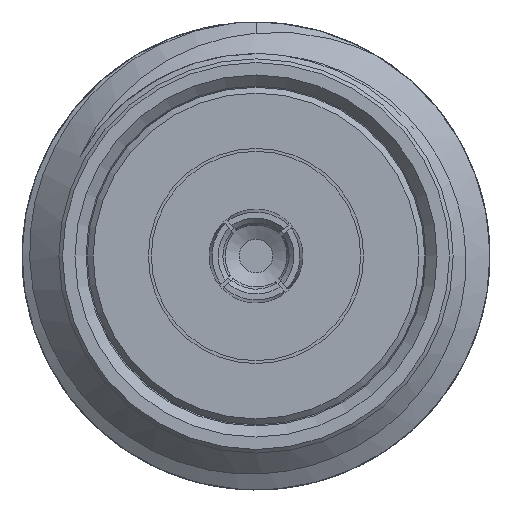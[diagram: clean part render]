
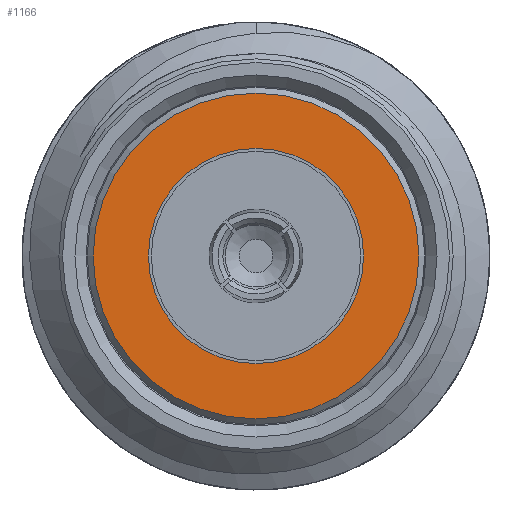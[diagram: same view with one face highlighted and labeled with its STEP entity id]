
A CAD part, front view. The second image highlights one B-rep face of the part: STEP entity #1166.
In plain terms, the highlighted planar face has unit normal (0, -1, 0).
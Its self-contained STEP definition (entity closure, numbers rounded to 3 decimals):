
#213 = DIRECTION ( 'NONE',  ( 0., 1., 0. ) ) ;
#532 = ORIENTED_EDGE ( 'NONE', *, *, #4336, .T. ) ;
#956 = DIRECTION ( 'NONE',  ( 0., 1., 0. ) ) ;
#960 = FACE_BOUND ( 'NONE', #2643, .T. ) ;
#1166 = ADVANCED_FACE ( 'NONE', ( #960, #5001 ), #7350, .T. ) ;
#1635 = VERTEX_POINT ( 'NONE', #6872 ) ;
#1715 = AXIS2_PLACEMENT_3D ( 'NONE', #3364, #2228, #4051 ) ;
#1972 = DIRECTION ( 'NONE',  ( -1., 0., 0. ) ) ;
#2146 = DIRECTION ( 'NONE',  ( 0., 0., -1. ) ) ;
#2228 = DIRECTION ( 'NONE',  ( 0., -1., 0. ) ) ;
#2495 = CARTESIAN_POINT ( 'NONE',  ( 0., -3.8, 0. ) ) ;
#2643 = EDGE_LOOP ( 'NONE', ( #532 ) ) ;
#2647 = VERTEX_POINT ( 'NONE', #2691 ) ;
#2691 = CARTESIAN_POINT ( 'NONE',  ( 0., -3.8, -1.46 ) ) ;
#3364 = CARTESIAN_POINT ( 'NONE',  ( 0., -3.8, 0. ) ) ;
#3729 = ORIENTED_EDGE ( 'NONE', *, *, #4968, .F. ) ;
#3767 = CIRCLE ( 'NONE', #7283, 2.21 ) ;
#3851 = AXIS2_PLACEMENT_3D ( 'NONE', #3898, #956, #2146 ) ;
#3898 = CARTESIAN_POINT ( 'NONE',  ( 0., -3.8, 0. ) ) ;
#3960 = CIRCLE ( 'NONE', #3851, 1.46 ) ;
#4051 = DIRECTION ( 'NONE',  ( 0., 0., -1. ) ) ;
#4336 = EDGE_CURVE ( 'NONE', #2647, #2647, #3960, .T. ) ;
#4968 = EDGE_CURVE ( 'NONE', #1635, #1635, #3767, .T. ) ;
#5001 = FACE_OUTER_BOUND ( 'NONE', #7478, .T. ) ;
#6872 = CARTESIAN_POINT ( 'NONE',  ( -2.21, -3.8, 0. ) ) ;
#7283 = AXIS2_PLACEMENT_3D ( 'NONE', #2495, #213, #1972 ) ;
#7350 = PLANE ( 'NONE',  #1715 ) ;
#7478 = EDGE_LOOP ( 'NONE', ( #3729 ) ) ;
